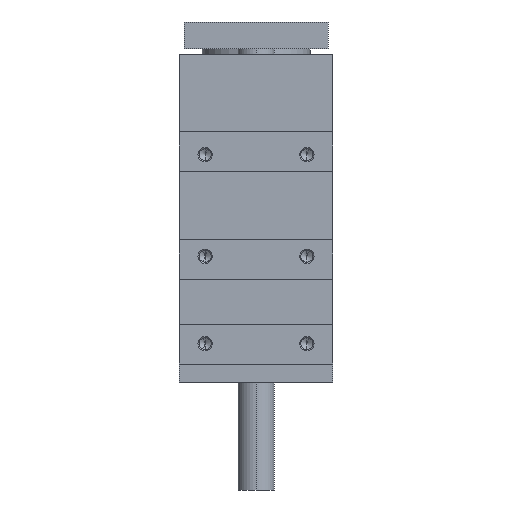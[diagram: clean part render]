
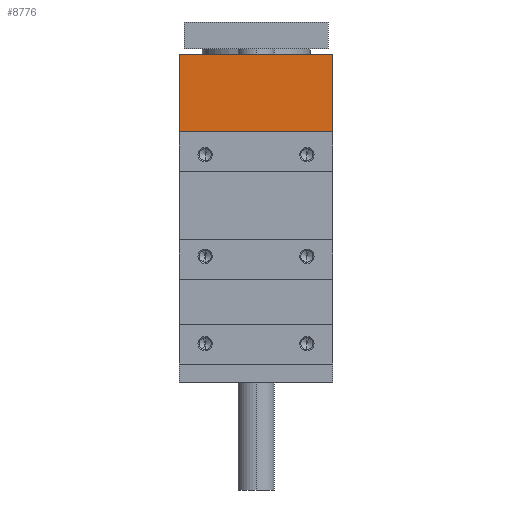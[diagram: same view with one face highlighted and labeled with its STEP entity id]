
A CAD part, left-side view. The second image highlights one B-rep face of the part: STEP entity #8776.
In plain terms, the highlighted planar face has unit normal (-1, 0, 0).
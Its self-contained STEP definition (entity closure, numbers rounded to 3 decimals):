
#970 = LINE ( 'NONE', #9054, #8736 ) ;
#2085 = PLANE ( 'NONE',  #5953 ) ;
#2087 = CARTESIAN_POINT ( 'NONE',  ( -75.7, -42.5, 0. ) ) ;
#2222 = EDGE_CURVE ( 'NONE', #10347, #7742, #6885, .T. ) ;
#2543 = VERTEX_POINT ( 'NONE', #7672 ) ;
#2841 = CARTESIAN_POINT ( 'NONE',  ( -75.7, 85., 71. ) ) ;
#3361 = CARTESIAN_POINT ( 'NONE',  ( -75.7, 42.5, 28. ) ) ;
#3603 = ORIENTED_EDGE ( 'NONE', *, *, #2222, .F. ) ;
#3708 = EDGE_CURVE ( 'NONE', #2543, #4383, #970, .T. ) ;
#3725 = LINE ( 'NONE', #8489, #9333 ) ;
#4383 = VERTEX_POINT ( 'NONE', #3361 ) ;
#4451 = DIRECTION ( 'NONE',  ( 0., 1., 0. ) ) ;
#4917 = VECTOR ( 'NONE', #5371, 1000. ) ;
#5371 = DIRECTION ( 'NONE',  ( 0., -1., 0. ) ) ;
#5739 = CARTESIAN_POINT ( 'NONE',  ( -75.7, -42.5, 28. ) ) ;
#5953 = AXIS2_PLACEMENT_3D ( 'NONE', #8470, #10058, #4451 ) ;
#6052 = CARTESIAN_POINT ( 'NONE',  ( -75.7, -42.5, 71. ) ) ;
#6788 = DIRECTION ( 'NONE',  ( 0., 0., -1. ) ) ;
#6885 = LINE ( 'NONE', #2087, #7807 ) ;
#6941 = DIRECTION ( 'NONE',  ( 0., 0., -1. ) ) ;
#7068 = LINE ( 'NONE', #2841, #4917 ) ;
#7672 = CARTESIAN_POINT ( 'NONE',  ( -75.7, 42.5, 71. ) ) ;
#7729 = FACE_OUTER_BOUND ( 'NONE', #9847, .T. ) ;
#7742 = VERTEX_POINT ( 'NONE', #5739 ) ;
#7807 = VECTOR ( 'NONE', #6941, 1000. ) ;
#7925 = EDGE_CURVE ( 'NONE', #2543, #10347, #7068, .T. ) ;
#8436 = EDGE_CURVE ( 'NONE', #4383, #7742, #3725, .T. ) ;
#8452 = ORIENTED_EDGE ( 'NONE', *, *, #8436, .T. ) ;
#8470 = CARTESIAN_POINT ( 'NONE',  ( -75.7, 85., 28. ) ) ;
#8489 = CARTESIAN_POINT ( 'NONE',  ( -75.7, 85., 28. ) ) ;
#8558 = ORIENTED_EDGE ( 'NONE', *, *, #7925, .F. ) ;
#8736 = VECTOR ( 'NONE', #6788, 1000. ) ;
#8776 = ADVANCED_FACE ( 'NONE', ( #7729 ), #2085, .F. ) ;
#9054 = CARTESIAN_POINT ( 'NONE',  ( -75.7, 42.5, 0. ) ) ;
#9333 = VECTOR ( 'NONE', #10230, 1000. ) ;
#9414 = ORIENTED_EDGE ( 'NONE', *, *, #3708, .T. ) ;
#9847 = EDGE_LOOP ( 'NONE', ( #9414, #8452, #3603, #8558 ) ) ;
#10058 = DIRECTION ( 'NONE',  ( 1., 0., 0. ) ) ;
#10230 = DIRECTION ( 'NONE',  ( 0., -1., 0. ) ) ;
#10347 = VERTEX_POINT ( 'NONE', #6052 ) ;
